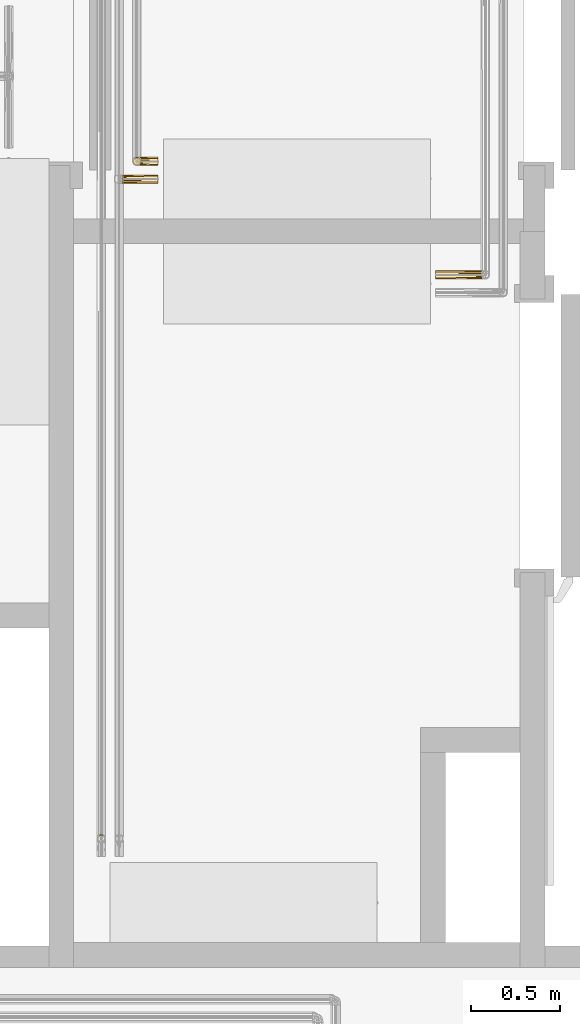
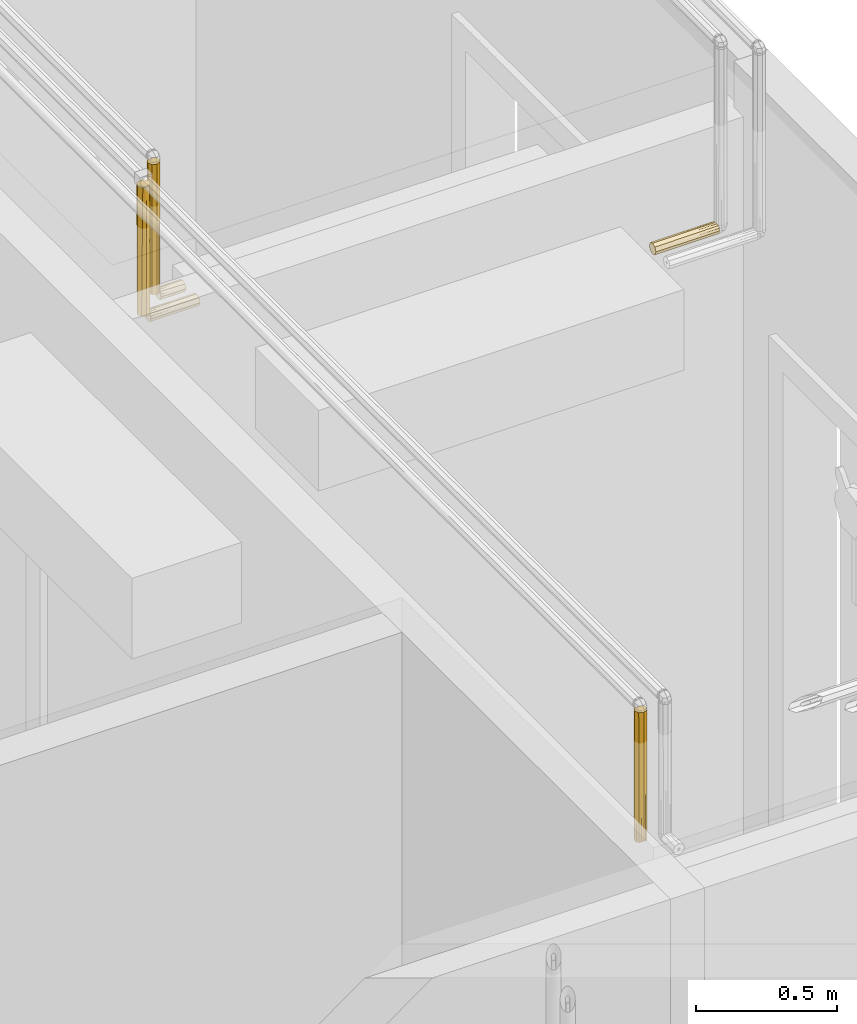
# One storey, part 162 of 652: 6 coverings.
"""IFC2X3 building model written with IfcOpenShell, lengths in millimetres."""

from ifc_helpers import new_model, entity, si_unit, converted_unit, direction, frame, origin, place, context, subcontext, project, spatial, faceted_brep, material, type_object, element, save


model = new_model("IFC2X3")

# Units and contexts
model_context = context("Model", 3, precision=0.01, world=frame((0.0, 0.0, 308426.39999999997)), true_north=direction((6.123233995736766e-17, 1.0)))
plan_context = context("Plan", 3, precision=0.01, world=frame((0.0, 0.0, 308426.39999999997)), true_north=direction((6.123233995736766e-17, 1.0)))
body_context = subcontext(model_context, "Body", "Model", "MODEL_VIEW")
ifc_project = project(units=[si_unit("LENGTHUNIT", "METRE", prefix="MILLI"), si_unit("AREAUNIT", "SQUARE_METRE"), si_unit("VOLUMEUNIT", "CUBIC_METRE"), converted_unit("PLANEANGLEUNIT", "DEGREE", entity("IfcPlaneAngleMeasure", 0.017453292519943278), si_unit("PLANEANGLEUNIT", "RADIAN"), dimensions=[0, 0, 0, 0, 0, 0, 0])], contexts=[model_context, plan_context])

# Site, building, storey
site_placement = place(None, origin())
site = spatial("IfcSite", under=ifc_project, at=site_placement, Name="Default", CompositionType="ELEMENT")
building_placement = place(site_placement, origin())
building = spatial("IfcBuilding", under=site, at=building_placement, CompositionType="ELEMENT")
storey_placement = place(building_placement, frame((0.0, 0.0, 1730.6999999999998)))
storey = spatial("IfcBuildingStorey", under=building, at=storey_placement, Name="EG_Produktion_FFB", CompositionType="ELEMENT", Elevation=1730.6999999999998)

# Coverings
ifc_material = material(Name="Dämmung - Armaflex-Schlauch")
covering_type = type_object("IfcCoveringType", Name="Rohrdämmung außen:Armaflex-Schlauch", PredefinedType="INSULATION")
covering_1_placement = place(storey_placement, frame((35696.35497776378, 55007.80591122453, 2674.6422277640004)))
element("IfcCovering", 1, at=covering_1_placement, inside=storey, type_object=covering_type, material=ifc_material, Name="Rohrdämmung außen:Armaflex-Schlauch", ObjectType="Rohrdämmung außen:Armaflex-Schlauch", PredefinedType="INSULATION", context=body_context, shape_type="Brep", body=[
    faceted_brep([(1.5952722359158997, 40.928415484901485, 43.30802223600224), (1.5952722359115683, 43.95116498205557, 39.26743877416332), (1.5952722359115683, 46.97391447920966, 35.226855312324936), (1.5952722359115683, 48.047093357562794, 30.29231377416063), (1.5952722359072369, 49.12027223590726, 25.357772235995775), (1.5952722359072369, 47.3803034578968, 21.157116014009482), (1.5952722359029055, 45.64033467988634, 16.95645979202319), (1.5952722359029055, 43.90036590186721, 12.755803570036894), (1.5952722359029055, 42.160397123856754, 8.555147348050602), (1.5952722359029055, 37.95974090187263, 6.815178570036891), (1.5952722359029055, 33.759084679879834, 5.075209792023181), (1.5952722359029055, 29.558428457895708, 3.3352410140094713), (1.5952722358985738, 25.35777223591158, 1.5952722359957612), (1.5952722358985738, 22.206801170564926, 2.9004471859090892), (1.5952722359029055, 16.956459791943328, 5.075209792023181), (1.5952722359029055, 12.755803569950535, 6.815178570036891), (1.5952722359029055, 8.55514734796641, 8.555147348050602), (1.5952722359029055, 6.815178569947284, 12.755803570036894), (1.5952722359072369, 5.075209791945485, 16.95645979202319), (1.5952722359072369, 3.335241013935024, 21.157116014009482), (1.5952722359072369, 1.5952722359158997, 25.357772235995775), (1.5952722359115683, 2.6684511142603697, 30.29231377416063), (1.5952722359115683, 3.7416299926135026, 35.226855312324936), (1.5952722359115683, 6.764379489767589, 39.26743877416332), (1.5952722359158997, 9.787128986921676, 43.3080222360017), (203.29427223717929, 12.755803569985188, 6.815178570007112), (203.29427223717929, 16.95645979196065, 5.0752097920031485), (203.29427223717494, 21.157116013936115, 3.3352410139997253), (203.29427223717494, 25.35777223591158, 1.595272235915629), (203.29427223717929, 31.65971437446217, 4.205622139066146), (203.29427223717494, 36.91005574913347, 6.38038474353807), (203.29427223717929, 42.160397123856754, 8.55514734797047), (203.29427223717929, 43.900365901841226, 12.755803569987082), (203.29427223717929, 45.64033467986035, 16.956459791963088), (203.2942722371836, 47.38030345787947, 21.157116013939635), (203.2942722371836, 49.12027223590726, 25.35777223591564), (203.2942722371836, 47.81509728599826, 28.50874330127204), (203.29427223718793, 45.64033467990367, 33.75908467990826), (203.29427223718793, 43.900365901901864, 37.9597409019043), (203.29427223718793, 42.160397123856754, 42.16039712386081), (203.29427223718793, 37.95974090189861, 43.90036590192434), (203.29427223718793, 33.759084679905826, 45.64033467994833), (203.29427223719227, 29.558428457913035, 47.38030345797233), (203.29427223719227, 25.35777223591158, 49.12027223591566), (203.29427223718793, 21.157116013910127, 47.38030345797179), (203.29427223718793, 16.956459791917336, 45.64033467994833), (203.29427223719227, 12.755803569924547, 43.90036590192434), (203.29427223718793, 8.55514734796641, 42.16039712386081), (203.29427223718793, 6.815178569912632, 37.9597409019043), (203.29427223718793, 5.075209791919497, 33.75908467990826), (203.29427223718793, 3.3352410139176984, 29.55842845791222), (203.2942722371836, 1.5952722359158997, 25.35777223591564), (203.29427223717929, 4.205622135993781, 19.055830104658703), (203.29427223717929, 6.380384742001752, 13.805488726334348), (203.29427223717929, 8.55514734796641, 8.55514734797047), (3.7511805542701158, 13.417429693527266, 45.463930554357), (5.907088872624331, 17.047730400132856, 47.61983887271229), (6.65730555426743, 21.20275131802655, 48.37005555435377), (7.407522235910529, 25.35777223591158, 49.120272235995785), (6.65730555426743, 29.51279315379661, 48.37005555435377), (3.7511805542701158, 37.2981147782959, 45.46393055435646), (5.907088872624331, 33.66781407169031, 47.61983887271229)], [[[0, 1, 2, 3, 4, 5, 6, 7, 8, 9, 10, 11, 12, 13, 14, 15, 16, 17, 18, 19, 20, 21, 22, 23, 24]], [[25, 26, 27, 28, 29, 30, 31, 32, 33, 34, 35, 36, 37, 38, 39, 40, 41, 42, 43, 44, 45, 46, 47, 48, 49, 50, 51, 52, 53, 54]], [[33, 32, 31, 8, 7, 6, 5, 4, 35, 34]], [[29, 28, 12, 11, 10, 9, 8, 31, 30]], [[26, 25, 54, 16, 15, 14, 13, 12, 28, 27]], [[16, 54, 53, 52, 51, 20, 19, 18, 17]], [[23, 48, 47]], [[20, 50, 21]], [[55, 24, 46]], [[49, 22, 21]], [[49, 48, 22]], [[51, 50, 20]], [[24, 47, 46]], [[56, 45, 44]], [[21, 50, 49]], [[55, 45, 56]], [[22, 48, 23]], [[57, 56, 44]], [[45, 55, 46]], [[47, 24, 23]], [[43, 57, 44]], [[58, 57, 43]], [[43, 59, 58]], [[38, 37, 2]], [[59, 43, 42]], [[0, 40, 39]], [[60, 41, 40]], [[39, 1, 0]], [[37, 3, 2]], [[60, 61, 41]], [[41, 61, 42]], [[36, 4, 3]], [[40, 0, 60]], [[38, 2, 1]], [[1, 39, 38]], [[42, 61, 59]], [[3, 37, 36]], [[36, 35, 4]], [[24, 55, 56, 57, 58, 59, 61, 60, 0]]]),
])
covering_2_placement = place(storey_placement, frame((37460.0, 54469.642227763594, 2674.642227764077)))
element("IfcCovering", 2, at=covering_2_placement, inside=storey, type_object=covering_type, material=ifc_material, Name="Rohrdämmung außen:Armaflex-Schlauch", ObjectType="Rohrdämmung außen:Armaflex-Schlauch", PredefinedType="INSULATION", context=body_context, shape_type="Brep", body=[
    faceted_brep([(262.049749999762, 9.787128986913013, 43.30802223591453), (262.0497499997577, 6.764379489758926, 39.2674387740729), (262.0497499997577, 3.7416299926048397, 35.22685531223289), (262.0497499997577, 2.668451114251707, 30.292313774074), (262.0497499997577, 1.5952722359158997, 25.35777223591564), (262.0497499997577, 3.3352410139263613, 21.157116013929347), (262.0497499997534, 5.075209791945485, 16.956459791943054), (262.04974999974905, 6.815178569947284, 12.755803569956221), (262.04974999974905, 8.55514734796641, 8.55514734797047), (262.04974999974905, 12.755803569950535, 6.8151785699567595), (262.04974999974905, 16.956459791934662, 5.075209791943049), (262.04974999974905, 21.157116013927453, 3.335241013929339), (262.04974999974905, 25.35777223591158, 1.595272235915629), (262.04974999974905, 30.20836043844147, 3.604451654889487), (262.04974999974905, 33.759084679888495, 5.075209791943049), (262.04974999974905, 37.95974090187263, 6.8151785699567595), (262.04974999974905, 42.160397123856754, 8.55514734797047), (262.04974999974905, 43.90036590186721, 12.755803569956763), (262.0497499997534, 45.640334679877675, 16.956459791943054), (262.0497499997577, 47.3803034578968, 21.157116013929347), (262.0497499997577, 49.12027223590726, 25.35777223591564), (262.0497499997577, 48.047093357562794, 30.292313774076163), (262.0497499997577, 46.97391447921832, 35.22685531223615), (262.0497499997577, 43.951164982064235, 39.26743877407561), (262.049749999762, 40.92841548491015, 43.30802223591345), (0.0, 37.95974090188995, 6.815178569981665), (0.0, 33.759084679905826, 5.075209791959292), (0.0, 29.558428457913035, 3.3352410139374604), (0.0, 25.35777223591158, 1.595272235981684), (0.0, 20.507184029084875, 3.604451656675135), (0.0, 15.656595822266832, 5.613631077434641), (0.0, 8.55514734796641, 8.555147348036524), (0.0, 6.815178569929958, 12.75580356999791), (0.0, 5.07520979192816, 16.956459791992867), (0.0, 3.3352410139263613, 21.15711601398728), (0.0, 1.5952722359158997, 25.357772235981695), (0.0, 3.6044516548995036, 30.20836043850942), (0.0, 5.075209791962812, 33.75908467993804), (0.0, 6.815178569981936, 37.95974090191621), (0.0, 8.55514734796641, 42.16039712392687), (0.0, 12.755803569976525, 43.90036590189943), (0.0, 16.95645979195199, 45.64033467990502), (0.0, 21.157116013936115, 47.38030345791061), (0.0, 25.35777223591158, 49.12027223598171), (0.0, 29.558428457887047, 47.38030345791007), (0.0, 33.75908467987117, 45.64033467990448), (0.0, 37.959740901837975, 43.90036590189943), (0.0, 42.160397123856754, 42.16039712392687), (0.0, 43.900365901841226, 37.959740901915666), (0.0, 45.64033467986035, 33.75908467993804), (0.0, 47.38030345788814, 29.558428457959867), (0.0, 49.12027223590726, 25.357772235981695), (0.0, 47.1110928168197, 20.507184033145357), (0.0, 45.10191339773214, 15.656595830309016), (0.0, 42.160397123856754, 8.555147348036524), (259.8938416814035, 37.29811477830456, 45.46393055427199), (257.73793336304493, 33.66781407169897, 47.61983887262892), (256.9877166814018, 29.512793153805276, 48.370055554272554), (256.23749999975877, 25.35777223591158, 49.12027223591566), (256.9877166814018, 21.202751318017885, 48.370055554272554), (259.8938416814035, 13.417429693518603, 45.46393055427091), (257.73793336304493, 17.04773040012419, 47.61983887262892)], [[[0, 1, 2, 3, 4, 5, 6, 7, 8, 9, 10, 11, 12, 13, 14, 15, 16, 17, 18, 19, 20, 21, 22, 23, 24]], [[25, 26, 27, 28, 29, 30, 31, 32, 33, 34, 35, 36, 37, 38, 39, 40, 41, 42, 43, 44, 45, 46, 47, 48, 49, 50, 51, 52, 53, 54]], [[33, 32, 31, 8, 7, 6, 5, 4, 35, 34]], [[31, 30, 29, 28, 12, 11, 10, 9, 8]], [[51, 20, 19, 18, 17, 16, 54, 53, 52]], [[15, 14, 13, 12, 28, 27, 26, 25, 54, 16]], [[23, 48, 47]], [[20, 50, 21]], [[55, 24, 46]], [[49, 22, 21]], [[49, 48, 22]], [[51, 50, 20]], [[24, 47, 46]], [[56, 45, 44]], [[21, 50, 49]], [[55, 45, 56]], [[22, 48, 23]], [[57, 56, 44]], [[45, 55, 46]], [[47, 24, 23]], [[43, 57, 44]], [[58, 57, 43]], [[43, 59, 58]], [[38, 37, 2]], [[59, 43, 42]], [[0, 40, 39]], [[60, 41, 40]], [[39, 1, 0]], [[37, 3, 2]], [[60, 61, 41]], [[41, 61, 42]], [[35, 3, 37, 36]], [[40, 0, 60]], [[38, 2, 1]], [[1, 39, 38]], [[42, 61, 59]], [[35, 4, 3]], [[59, 61, 60, 0, 24, 55, 56, 57, 58]]]),
])
covering_3_placement = place(storey_placement, frame((35796.354977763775, 55107.80591122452, 2674.642227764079)))
element("IfcCovering", 3, at=covering_3_placement, inside=storey, type_object=covering_type, material=ifc_material, Name="Rohrdämmung außen:Armaflex-Schlauch", ObjectType="Rohrdämmung außen:Armaflex-Schlauch", PredefinedType="INSULATION", context=body_context, shape_type="Brep", body=[
    faceted_brep([(1.5952722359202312, 40.92841548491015, 43.30802223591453), (1.5952722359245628, 43.951164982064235, 39.26743877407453), (1.5952722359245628, 46.97391447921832, 35.22685531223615), (1.5952722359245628, 48.047093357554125, 30.292313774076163), (1.5952722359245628, 49.12027223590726, 25.35777223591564), (1.5952722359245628, 47.3803034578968, 21.157116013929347), (1.5952722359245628, 45.640334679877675, 16.956459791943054), (1.5952722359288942, 43.90036590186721, 12.755803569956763), (1.5952722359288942, 42.160397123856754, 8.55514734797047), (1.5952722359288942, 37.95974090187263, 6.8151785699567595), (1.5952722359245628, 33.759084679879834, 5.075209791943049), (1.5952722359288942, 29.558428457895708, 3.335241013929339), (1.5952722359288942, 25.35777223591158, 1.595272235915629), (1.5952722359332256, 22.233121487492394, 2.889544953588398), (1.5952722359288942, 16.956459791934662, 5.075209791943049), (1.5952722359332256, 12.755803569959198, 6.8151785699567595), (1.5952722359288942, 8.55514734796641, 8.55514734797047), (1.5952722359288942, 6.815178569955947, 12.755803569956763), (1.5952722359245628, 5.075209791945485, 16.956459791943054), (1.5952722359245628, 3.335241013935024, 21.157116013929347), (1.5952722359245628, 1.5952722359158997, 25.35777223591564), (1.5952722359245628, 2.6684511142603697, 30.29231377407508), (1.5952722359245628, 3.7416299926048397, 35.22685531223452), (1.5952722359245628, 6.764379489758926, 39.26743877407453), (1.5952722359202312, 9.78712898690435, 43.30802223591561), (103.29427223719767, 12.755803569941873, 6.815178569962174), (103.29427223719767, 16.956459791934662, 5.075209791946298), (103.29427223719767, 21.157116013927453, 3.3352410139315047), (103.29427223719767, 25.35777223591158, 1.5952722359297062), (103.29427223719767, 31.607073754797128, 4.183817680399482), (103.29427223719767, 36.8837354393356, 6.369482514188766), (103.29427223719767, 42.160397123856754, 8.555147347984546), (103.29427223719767, 43.90036590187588, 12.755803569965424), (103.29427223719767, 45.64033467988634, 16.956459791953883), (103.29427223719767, 47.38030345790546, 21.157116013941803), (103.29427223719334, 49.12027223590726, 25.35777223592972), (103.29427223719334, 47.82599951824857, 28.482422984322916), (103.29427223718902, 45.640334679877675, 33.759084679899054), (103.29427223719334, 43.90036590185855, 37.95974090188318), (103.29427223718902, 42.160397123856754, 42.160397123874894), (103.29427223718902, 37.95974090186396, 43.90036590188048), (103.29427223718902, 33.759084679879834, 45.64033467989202), (103.29427223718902, 29.558428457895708, 47.380303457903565), (103.29427223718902, 25.35777223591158, 49.12027223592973), (103.29427223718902, 21.157116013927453, 47.38030345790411), (103.29427223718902, 16.956459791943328, 45.64033467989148), (103.29427223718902, 12.755803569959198, 43.90036590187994), (103.29427223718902, 8.55514734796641, 42.160397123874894), (103.29427223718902, 6.81517856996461, 37.95974090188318), (103.29427223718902, 5.075209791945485, 33.759084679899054), (103.29427223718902, 3.3352410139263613, 29.558428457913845), (103.29427223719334, 1.5952722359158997, 25.35777223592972), (103.29427223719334, 4.183817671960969, 19.108470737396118), (103.29427223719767, 6.369482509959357, 13.831809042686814), (103.29427223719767, 8.55514734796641, 8.555147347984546), (3.751180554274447, 13.417429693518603, 45.46393055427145), (5.907088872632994, 17.04773040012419, 47.61983887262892), (6.657305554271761, 21.202751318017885, 48.370055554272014), (7.407522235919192, 25.35777223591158, 49.12027223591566), (6.657305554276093, 29.512793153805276, 48.370055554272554), (3.751180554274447, 37.29811477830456, 45.46393055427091), (5.907088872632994, 33.66781407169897, 47.61983887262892)], [[[0, 1, 2, 3, 4, 5, 6, 7, 8, 9, 10, 11, 12, 13, 14, 15, 16, 17, 18, 19, 20, 21, 22, 23, 24]], [[25, 26, 27, 28, 29, 30, 31, 32, 33, 34, 35, 36, 37, 38, 39, 40, 41, 42, 43, 44, 45, 46, 47, 48, 49, 50, 51, 52, 53, 54]], [[32, 31, 8, 7, 6, 5, 4, 35, 34, 33]], [[29, 28, 12, 11, 10, 9, 8, 31, 30]], [[26, 25, 54, 16, 15, 14, 13, 12, 28, 27]], [[16, 54, 53, 52, 51, 20, 19, 18, 17]], [[23, 48, 47]], [[20, 50, 21]], [[55, 24, 46]], [[49, 22, 21]], [[49, 48, 22]], [[51, 50, 20]], [[24, 47, 46]], [[56, 45, 44]], [[21, 50, 49]], [[55, 45, 56]], [[22, 48, 23]], [[57, 56, 44]], [[45, 55, 46]], [[47, 24, 23]], [[43, 57, 44]], [[58, 57, 43]], [[43, 59, 58]], [[38, 37, 2]], [[59, 43, 42]], [[0, 40, 39]], [[60, 41, 40]], [[39, 1, 0]], [[37, 3, 2]], [[60, 61, 41]], [[41, 61, 42]], [[36, 4, 3]], [[40, 0, 60]], [[38, 2, 1]], [[1, 39, 38]], [[42, 61, 59]], [[3, 37, 36]], [[36, 35, 4]], [[24, 55, 56, 57, 58, 59, 61, 60, 0]]]),
])
covering_4_placement = place(storey_placement, frame((35554.64222776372, 51299.489887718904, 3283.6450222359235)))
element("IfcCovering", 4, at=covering_4_placement, inside=storey, type_object=covering_type, material=ifc_material, Name="Rohrdämmung außen:Armaflex-Schlauch", ObjectType="Rohrdämmung außen:Armaflex-Schlauch", PredefinedType="INSULATION", context=body_context, shape_type="Brep", body=[
    faceted_brep([(3.7416299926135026, 15.488689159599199, -565.6947722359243), (2.6684511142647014, 20.42323069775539, -565.6947722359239), (1.5952722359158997, 25.35777223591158, -565.6947722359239), (3.3352410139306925, 29.558428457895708, -565.6947722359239), (5.075209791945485, 33.759084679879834, -565.6947722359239), (6.815178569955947, 37.95974090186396, -565.6947722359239), (8.55514734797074, 42.160397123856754, -565.6947722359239), (12.755803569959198, 43.90036590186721, -565.6947722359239), (16.956459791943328, 45.64033467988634, -565.6947722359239), (21.157116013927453, 47.3803034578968, -565.6947722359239), (25.357772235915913, 49.12027223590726, -565.6947722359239), (29.55842845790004, 47.3803034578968, -565.6947722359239), (33.759084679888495, 45.64033467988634, -565.6947722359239), (37.95974090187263, 43.90036590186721, -565.6947722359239), (42.16039712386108, 42.160397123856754, -565.6947722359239), (43.90036590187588, 37.95974090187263, -565.6947722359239), (45.64033467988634, 33.759084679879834, -565.6947722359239), (47.25356267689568, 29.864407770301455, -565.6947722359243), (49.12027223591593, 25.35777223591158, -565.6947722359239), (48.04709335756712, 20.42323069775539, -565.6947722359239), (46.97391447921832, 15.488689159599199, -565.6947722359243), (43.951164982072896, 11.448105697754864, -565.6947722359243), (40.92841548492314, 7.407522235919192, -565.6947722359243), (9.787128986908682, 7.407522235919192, -565.6947722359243), (6.764379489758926, 11.448105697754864, -565.6947722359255), (9.787128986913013, 43.30802223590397, -1.5952722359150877), (6.764379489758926, 39.267438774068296, -1.5952722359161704), (3.7416299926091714, 35.22685531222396, -1.5952722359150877), (2.6684511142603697, 30.29231377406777, -1.5952722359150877), (1.5952722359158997, 25.357772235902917, -1.5952722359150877), (3.4619817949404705, 20.851136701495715, -1.5952722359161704), (5.075209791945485, 16.956459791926, -1.5952722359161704), (6.81517856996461, 12.755803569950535, -1.5952722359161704), (8.55514734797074, 8.555147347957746, -1.5952722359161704), (12.755803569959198, 6.815178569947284, -1.5952722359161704), (16.956459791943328, 5.075209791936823, -1.5952722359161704), (21.157116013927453, 3.3352410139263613, -1.5952722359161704), (25.357772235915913, 1.5952722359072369, -1.5952722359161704), (29.55842845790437, 3.3352410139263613, -1.5952722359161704), (33.759084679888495, 5.075209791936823, -1.5952722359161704), (37.95974090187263, 6.815178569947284, -1.5952722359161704), (42.16039712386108, 8.555147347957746, -1.5952722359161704), (43.900365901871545, 12.755803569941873, -1.5952722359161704), (45.64033467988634, 16.956459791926, -1.5952722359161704), (47.38030345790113, 21.15711601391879, -1.5952722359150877), (49.12027223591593, 25.357772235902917, -1.5952722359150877), (48.047093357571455, 30.29231377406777, -1.5952722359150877), (46.97391447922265, 35.22685531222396, -1.5952722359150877), (43.95116498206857, 39.267438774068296, -1.5952722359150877), (40.92841548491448, 43.30802223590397, -1.5952722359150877), (17.04773040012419, 47.61983887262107, -5.907088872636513), (13.417429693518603, 45.46393055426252, -3.7511805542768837), (21.202751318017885, 48.3700555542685, -6.657305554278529), (25.357772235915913, 49.12027223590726, -7.4075222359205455), (29.512793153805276, 48.3700555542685, -6.657305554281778), (33.6678140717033, 47.61983887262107, -5.907088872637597), (37.29811477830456, 45.46393055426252, -3.7511805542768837), (29.512793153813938, 2.345488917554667, -560.6327389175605), (37.298114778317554, 5.251613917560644, -563.5388639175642), (33.66781407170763, 3.095705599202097, -561.3829555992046), (25.357772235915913, 1.5952722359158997, -559.8825222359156), (21.20275131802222, 2.34548891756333, -560.632738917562), (17.04773040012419, 3.095705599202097, -561.3829555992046), (13.417429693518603, 5.251613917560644, -563.5388639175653)], [[[0, 1, 2, 3, 4, 5, 6, 7, 8, 9, 10, 11, 12, 13, 14, 15, 16, 17, 18, 19, 20, 21, 22, 23, 24]], [[25, 26, 27, 28, 29, 30, 31, 32, 33, 34, 35, 36, 37, 38, 39, 40, 41, 42, 43, 44, 45, 46, 47, 48, 49]], [[29, 3, 2]], [[8, 50, 9]], [[3, 29, 28]], [[28, 4, 3]], [[25, 6, 26]], [[7, 25, 51]], [[51, 50, 8]], [[52, 53, 10]], [[27, 26, 5]], [[26, 6, 5]], [[27, 5, 4]], [[9, 50, 52]], [[6, 25, 7]], [[28, 27, 4]], [[51, 8, 7]], [[52, 10, 9]], [[53, 54, 10]], [[46, 45, 17]], [[11, 54, 55]], [[47, 15, 48]], [[56, 12, 55]], [[14, 49, 48]], [[47, 46, 16]], [[16, 46, 17]], [[10, 54, 11]], [[48, 15, 14]], [[45, 18, 17]], [[47, 16, 15]], [[12, 56, 13]], [[49, 13, 56]], [[11, 55, 12]], [[13, 49, 14]], [[21, 42, 41]], [[45, 44, 18]], [[43, 20, 19]], [[43, 42, 20]], [[37, 57, 38]], [[22, 40, 58]], [[59, 39, 38]], [[19, 44, 43]], [[39, 59, 58]], [[20, 42, 21]], [[57, 59, 38]], [[18, 44, 19]], [[41, 22, 21]], [[60, 57, 37]], [[40, 22, 41]], [[40, 39, 58]], [[37, 61, 60]], [[1, 31, 30]], [[61, 37, 36]], [[62, 35, 63]], [[24, 33, 32]], [[33, 24, 23]], [[31, 1, 0]], [[23, 34, 33]], [[35, 62, 36]], [[30, 2, 1]], [[23, 63, 34]], [[32, 0, 24]], [[32, 31, 0]], [[36, 62, 61]], [[30, 29, 2]], [[63, 35, 34]], [[22, 58, 59, 57, 60, 61, 62, 63, 23]], [[55, 54, 53, 52, 50, 51, 25, 49, 56]]]),
])
covering_5_placement = place(storey_placement, frame((35654.642227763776, 55007.80591122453, 2716.3549777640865)))
element("IfcCovering", 5, at=covering_5_placement, inside=storey, type_object=covering_type, material=ifc_material, Name="Rohrdämmung außen:Armaflex-Schlauch", ObjectType="Rohrdämmung außen:Armaflex-Schlauch", PredefinedType="INSULATION", context=body_context, shape_type="Brep", body=[
    faceted_brep([(47.73979299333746, 19.79918293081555, 563.9957722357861), (49.12027223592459, 25.35777223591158, 563.9957722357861), (47.7397929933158, 30.916361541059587, 563.9957722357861), (46.35931375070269, 36.47495084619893, 563.9957722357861), (42.539923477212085, 40.74098654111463, 563.9957722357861), (38.720533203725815, 45.007022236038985, 563.9957722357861), (11.995011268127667, 45.007022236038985, 563.9957722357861), (8.175620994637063, 40.74098654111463, 563.995772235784), (4.35623072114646, 36.47495084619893, 563.9957722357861), (2.9757514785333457, 30.916361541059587, 563.9957722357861), (1.5952722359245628, 25.35777223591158, 563.9957722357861), (2.97575147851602, 19.79918293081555, 563.9957722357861), (4.356230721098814, 14.240593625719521, 563.9957722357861), (8.175620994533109, 9.974557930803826, 563.9957722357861), (11.995011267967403, 5.708522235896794, 563.9957722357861), (38.72053320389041, 5.708522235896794, 563.9957722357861), (42.53992347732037, 9.974557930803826, 563.9957722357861), (46.35931375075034, 14.240593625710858, 563.9957722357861), (43.30802223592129, 40.92841548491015, 1.5952722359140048), (43.30802223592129, 9.787128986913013, 1.5952722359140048), (39.26743877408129, 6.764379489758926, 1.595272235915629), (35.22685531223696, 3.7416299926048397, 1.5952722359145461), (30.292313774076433, 2.6684511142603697, 1.5952722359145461), (25.357772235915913, 1.5952722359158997, 1.5952722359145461), (21.157116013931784, 3.3352410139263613, 1.5952722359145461), (16.95645979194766, 5.075209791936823, 1.5952722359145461), (12.75580356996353, 6.815178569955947, 1.5952722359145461), (8.55514734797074, 8.55514734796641, 1.5952722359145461), (6.81517856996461, 12.755803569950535, 1.5952722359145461), (5.075209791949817, 16.956459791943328, 1.5952722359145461), (3.3352410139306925, 21.15711601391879, 1.5952722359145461), (1.5952722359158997, 25.35777223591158, 1.5952722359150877), (3.4676210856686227, 29.878022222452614, 1.5952722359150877), (5.075209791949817, 33.759084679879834, 1.5952722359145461), (6.81517856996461, 37.95974090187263, 1.5952722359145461), (8.55514734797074, 42.160397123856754, 1.5952722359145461), (12.75580356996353, 43.90036590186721, 1.5952722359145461), (16.95645979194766, 45.64033467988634, 1.5952722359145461), (21.157116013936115, 47.3803034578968, 1.5952722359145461), (25.357772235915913, 49.12027223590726, 1.5952722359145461), (30.292313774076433, 48.047093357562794, 1.5952722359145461), (35.22685531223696, 46.973914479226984, 1.5952722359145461), (39.26743877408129, 43.951164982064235, 1.5952722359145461), (25.357772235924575, 49.12027223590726, 559.8825222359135), (18.36702466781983, 48.068691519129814, 560.9341029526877), (18.367024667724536, 2.6468529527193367, 560.9341029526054), (25.357772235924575, 1.5952722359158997, 559.8825222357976), (32.34851980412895, 2.6468529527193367, 560.9341029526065), (47.61983887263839, 17.04773040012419, 5.907088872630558), (45.463930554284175, 13.417429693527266, 3.7511805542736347), (48.370055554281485, 21.20275131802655, 6.657305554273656), (49.12027223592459, 25.35777223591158, 7.407522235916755), (47.61983887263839, 33.66781407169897, 5.907088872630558), (45.463930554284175, 37.29811477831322, 3.751180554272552), (48.23290986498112, 30.272364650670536, 6.520159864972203), (32.34851980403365, 48.068691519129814, 560.9341029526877)], [[[0, 1, 2, 3, 4, 5, 6, 7, 8, 9, 10, 11, 12, 13, 14, 15, 16, 17]], [[18, 19, 20, 21, 22, 23, 24, 25, 26, 27, 28, 29, 30, 31, 32, 33, 34, 35, 36, 37, 38, 39, 40, 41, 42]], [[6, 37, 36, 35]], [[43, 38, 44]], [[44, 37, 6]], [[34, 7, 35]], [[33, 9, 8]], [[32, 31, 10]], [[38, 37, 44]], [[32, 10, 9]], [[9, 33, 32]], [[38, 43, 39]], [[7, 34, 8]], [[34, 33, 8]], [[7, 6, 35]], [[28, 27, 13]], [[14, 27, 26, 25]], [[45, 25, 24]], [[29, 12, 11]], [[27, 14, 13]], [[31, 30, 10]], [[45, 24, 46]], [[11, 30, 29]], [[12, 28, 13]], [[10, 30, 11]], [[23, 46, 24]], [[14, 25, 45]], [[12, 29, 28]], [[46, 22, 47]], [[22, 46, 23]], [[15, 21, 20]], [[15, 47, 21]], [[15, 20, 16]], [[20, 19, 16]], [[48, 17, 49]], [[22, 21, 47]], [[0, 48, 50]], [[49, 16, 19]], [[50, 1, 0]], [[0, 17, 48]], [[50, 51, 1]], [[17, 16, 49]], [[3, 52, 53]], [[42, 4, 18]], [[1, 51, 54]], [[2, 52, 3]], [[1, 54, 2]], [[52, 2, 54]], [[43, 40, 39]], [[3, 53, 4]], [[4, 42, 5]], [[55, 5, 41]], [[40, 43, 55]], [[53, 18, 4]], [[42, 41, 5]], [[55, 41, 40]], [[44, 6, 5, 55, 43]], [[14, 45, 46, 47, 15]], [[19, 18, 53, 52, 54, 51, 50, 48, 49]]]),
])
covering_6_placement = place(storey_placement, frame((35754.642227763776, 55107.80591122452, 2716.3549777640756)))
element("IfcCovering", 6, at=covering_6_placement, inside=storey, type_object=covering_type, material=ifc_material, Name="Rohrdämmung außen:Armaflex-Schlauch", ObjectType="Rohrdämmung außen:Armaflex-Schlauch", PredefinedType="INSULATION", context=body_context, shape_type="Brep", body=[
    faceted_brep([(6.815178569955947, 12.755803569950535, 1.595272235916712), (5.075209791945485, 16.956459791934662, 1.595272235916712), (3.4619817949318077, 20.851136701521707, 1.595272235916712), (1.5952722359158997, 25.35777223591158, 1.595272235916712), (3.3352410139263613, 29.558428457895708, 1.595272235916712), (5.075209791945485, 33.759084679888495, 1.595272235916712), (6.8151785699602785, 37.95974090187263, 1.595272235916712), (8.55514734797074, 42.160397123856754, 1.595272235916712), (12.755803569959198, 43.90036590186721, 1.595272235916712), (16.956459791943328, 45.640334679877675, 1.595272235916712), (21.157116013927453, 47.38030345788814, 1.595272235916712), (25.357772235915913, 49.12027223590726, 1.595272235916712), (30.292313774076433, 48.047093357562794, 1.595272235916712), (35.22685531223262, 46.97391447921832, 1.595272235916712), (39.26743877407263, 43.951164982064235, 1.595272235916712), (43.30802223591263, 40.92841548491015, 1.595272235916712), (43.30802223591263, 9.787128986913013, 1.595272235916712), (39.26743877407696, 6.764379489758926, 1.595272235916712), (35.22685531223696, 3.7416299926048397, 1.595272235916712), (30.292313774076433, 2.6684511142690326, 1.595272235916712), (25.357772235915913, 1.5952722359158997, 1.595272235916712), (20.851136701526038, 3.4619817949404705, 1.595272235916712), (16.956459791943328, 5.075209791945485, 1.595272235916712), (12.755803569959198, 6.815178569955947, 1.595272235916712), (8.55514734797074, 8.55514734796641, 1.595272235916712), (9.787128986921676, 43.30802223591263, 565.6947722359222), (6.764379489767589, 39.26743877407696, 565.6947722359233), (3.7416299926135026, 35.22685531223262, 565.6947722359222), (2.6684511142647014, 30.292313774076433, 565.6947722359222), (1.5952722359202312, 25.35777223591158, 565.6947722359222), (3.4619817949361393, 20.85113670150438, 565.6947722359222), (5.32869135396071, 16.344501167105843, 565.6947722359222), (6.941919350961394, 12.449824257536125, 565.6947722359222), (8.55514734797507, 8.55514734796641, 565.6947722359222), (12.755803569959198, 6.815178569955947, 565.6947722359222), (16.956459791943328, 5.075209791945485, 565.6947722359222), (21.157116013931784, 3.335241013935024, 565.6947722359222), (25.357772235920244, 1.5952722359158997, 565.6947722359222), (29.86440777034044, 3.4619817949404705, 565.6947722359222), (33.759084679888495, 5.075209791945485, 565.6947722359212), (37.959740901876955, 6.815178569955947, 565.6947722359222), (42.160397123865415, 8.55514734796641, 565.6947722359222), (43.90036590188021, 12.755803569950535, 565.6947722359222), (45.64033467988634, 16.956459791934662, 565.6947722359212), (47.38030345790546, 21.157116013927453, 565.6947722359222), (49.120272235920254, 25.35777223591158, 565.6947722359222), (48.04709335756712, 30.292313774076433, 565.6947722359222), (46.97391447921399, 35.22685531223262, 565.6947722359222), (43.951164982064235, 39.26743877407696, 565.6947722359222), (40.92841548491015, 43.30802223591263, 565.6947722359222), (17.047730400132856, 47.61983887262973, 561.3829555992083), (13.417429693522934, 45.46393055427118, 563.5388639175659), (21.20275131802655, 48.3700555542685, 560.6327389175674), (25.357772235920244, 49.12027223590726, 559.8825222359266), (37.29811477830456, 45.46393055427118, 563.5388639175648), (33.66781407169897, 47.61983887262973, 561.3829555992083), (30.25756258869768, 48.23558247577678, 560.7672119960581), (49.12027223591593, 25.35777223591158, 7.407522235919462), (48.370055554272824, 29.512793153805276, 6.657305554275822), (47.61983887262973, 33.66781407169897, 5.907088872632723), (45.46393055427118, 37.29811477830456, 3.7511805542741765), (48.370055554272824, 21.202751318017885, 6.657305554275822), (47.61983887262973, 17.04773040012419, 5.907088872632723), (45.46393055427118, 13.417429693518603, 3.7511805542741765)], [[[0, 1, 2, 3, 4, 5, 6, 7, 8, 9, 10, 11, 12, 13, 14, 15, 16, 17, 18, 19, 20, 21, 22, 23, 24]], [[25, 26, 27, 28, 29, 30, 31, 32, 33, 34, 35, 36, 37, 38, 39, 40, 41, 42, 43, 44, 45, 46, 47, 48, 49]], [[29, 4, 3]], [[9, 50, 10]], [[4, 29, 28]], [[28, 5, 4]], [[25, 7, 26]], [[8, 25, 51]], [[51, 50, 9]], [[52, 53, 11]], [[27, 26, 6]], [[26, 7, 6]], [[27, 6, 5]], [[10, 50, 52]], [[7, 25, 8]], [[28, 27, 5]], [[51, 9, 8]], [[52, 11, 10]], [[54, 49, 14]], [[55, 12, 56]], [[11, 53, 56]], [[12, 55, 13]], [[11, 56, 12]], [[54, 14, 13]], [[45, 57, 58]], [[46, 59, 47]], [[13, 55, 54]], [[60, 15, 48]], [[58, 59, 46]], [[47, 59, 60]], [[49, 15, 14]], [[47, 60, 48]], [[15, 49, 48]], [[45, 58, 46]], [[45, 61, 57]], [[19, 39, 38]], [[61, 45, 44]], [[62, 43, 63]], [[17, 41, 40]], [[41, 17, 16]], [[39, 19, 18]], [[16, 42, 41]], [[43, 62, 44]], [[38, 20, 19]], [[16, 63, 42]], [[40, 18, 17]], [[40, 39, 18]], [[44, 62, 61]], [[38, 37, 20]], [[63, 43, 42]], [[20, 37, 36, 35, 34, 33, 24, 23, 22, 21]], [[24, 33, 32, 31, 30, 29, 3, 2, 1, 0]], [[15, 60, 59, 58, 57, 61, 62, 63, 16]], [[55, 56, 53, 52, 50, 51, 25, 49, 54]]]),
])

save(model, "model.ifc")
